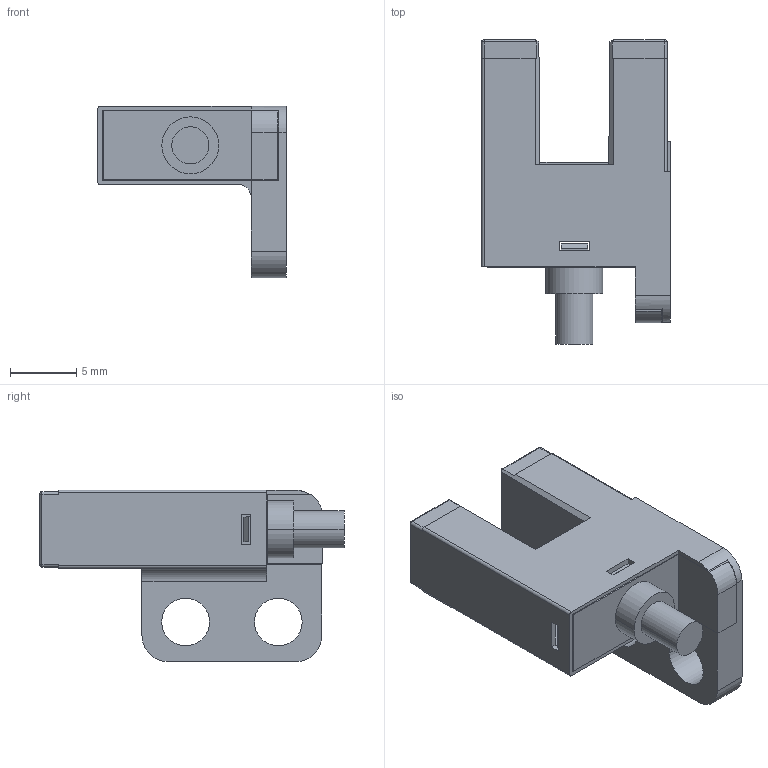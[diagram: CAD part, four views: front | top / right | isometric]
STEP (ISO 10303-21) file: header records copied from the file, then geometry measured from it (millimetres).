
FILE_DESCRIPTION((''),'2;1');
FILE_NAME('F45_ASM','2018-07-14T18:16:40',('Administrator'),(''),'CREO PARAMETRIC BY PTC INC, 2016390','CREO PARAMETRIC BY PTC INC, 2016390','');
FILE_SCHEMA(('CONFIG_CONTROL_DESIGN'));
Length unit declared in the file: millimetre
Products named in the file (3): C_REF_5; C_REF_2_4; F45_ASM
Assembly tree (2 placements, depth 2):
  F45_ASM
    C_REF_5
    C_REF_2_4
Bounding box: 14.25 x 22.96 x 12.95 mm (x, y, z)
Volume: 627 mm3; surface area: 2123.8 mm2
Topology: 2 solids, 2 shells, 179 faces, 495 edges, 327 vertices
Faces by surface type: plane 140, cylinder 35, bspline 4
Entity records: 5824 total; most frequent: CARTESIAN_POINT 1121, ORIENTED_EDGE 990, DIRECTION 906, EDGE_CURVE 495, VECTOR 414, LINE 414, VERTEX_POINT 327, AXIS2_PLACEMENT_3D 246
